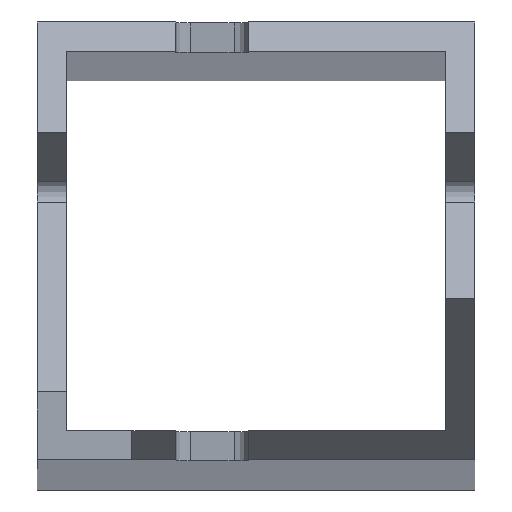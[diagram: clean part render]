
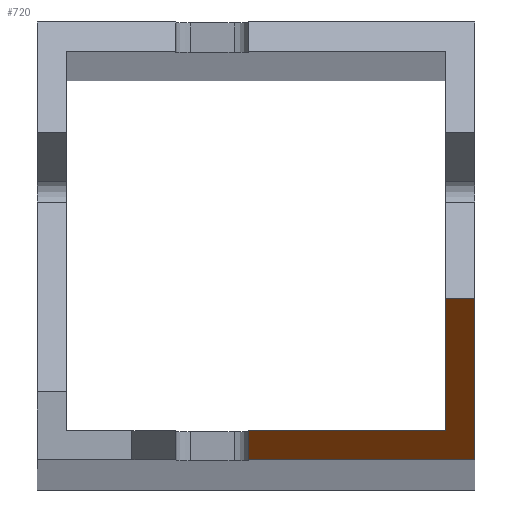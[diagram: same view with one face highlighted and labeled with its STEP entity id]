
A CAD part, top view. The second image highlights one B-rep face of the part: STEP entity #720.
In plain terms, the highlighted planar face has unit normal (0, -0.738, 0.675).
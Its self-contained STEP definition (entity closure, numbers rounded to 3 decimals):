
#32 = PLANE('',#33);
#33 = AXIS2_PLACEMENT_3D('',#34,#35,#36);
#34 = CARTESIAN_POINT('',(-30.,-30.,0.));
#35 = DIRECTION('',(0.,1.,0.));
#36 = DIRECTION('',(1.,0.,0.));
#285 = VERTEX_POINT('',#286);
#286 = CARTESIAN_POINT('',(-1.,-30.,2363.697));
#299 = PLANE('',#300);
#300 = AXIS2_PLACEMENT_3D('',#301,#302,#303);
#301 = CARTESIAN_POINT('',(-1.,3.345,2323.849));
#302 = DIRECTION('',(-1.,0.,0.));
#303 = DIRECTION('',(0.,0.738,-0.675));
#310 = EDGE_CURVE('',#285,#311,#313,.T.);
#311 = VERTEX_POINT('',#312);
#312 = CARTESIAN_POINT('',(30.,-30.,2363.697));
#313 = SURFACE_CURVE('',#314,(#318,#324),.PCURVE_S1.);
#314 = LINE('',#315,#316);
#315 = CARTESIAN_POINT('',(-23.5,-30.,2363.697));
#316 = VECTOR('',#317,1.);
#317 = DIRECTION('',(1.,0.,-0.));
#318 = PCURVE('',#32,#319);
#319 = DEFINITIONAL_REPRESENTATION('',(#320),#323);
#320 = B_SPLINE_CURVE_WITH_KNOTS('',1,(#321,#322),.UNSPECIFIED.,.F.,.F.,
  (2,2),(6.5,53.5),.PIECEWISE_BEZIER_KNOTS.);
#321 = CARTESIAN_POINT('',(13.,-2363.697));
#322 = CARTESIAN_POINT('',(60.,-2363.697));
#323 = ( GEOMETRIC_REPRESENTATION_CONTEXT(2) 
PARAMETRIC_REPRESENTATION_CONTEXT() REPRESENTATION_CONTEXT('2D SPACE',''
  ) );
#324 = PCURVE('',#325,#330);
#325 = PLANE('',#326);
#326 = AXIS2_PLACEMENT_3D('',#327,#328,#329);
#327 = CARTESIAN_POINT('',(-17.,-1296.179,
    980.28));
#328 = DIRECTION('',(0.,-0.738,0.675));
#329 = DIRECTION('',(0.,0.675,0.738));
#330 = DEFINITIONAL_REPRESENTATION('',(#331),#334);
#331 = B_SPLINE_CURVE_WITH_KNOTS('',1,(#332,#333),.UNSPECIFIED.,.F.,.F.,
  (2,2),(6.5,53.5),.PIECEWISE_BEZIER_KNOTS.);
#332 = CARTESIAN_POINT('',(1875.381,0.));
#333 = CARTESIAN_POINT('',(1875.381,-47.));
#334 = ( GEOMETRIC_REPRESENTATION_CONTEXT(2) 
PARAMETRIC_REPRESENTATION_CONTEXT() REPRESENTATION_CONTEXT('2D SPACE',''
  ) );
#350 = PLANE('',#351);
#351 = AXIS2_PLACEMENT_3D('',#352,#353,#354);
#352 = CARTESIAN_POINT('',(30.,-30.,0.));
#353 = DIRECTION('',(-1.,0.,0.));
#354 = DIRECTION('',(0.,1.,0.));
#454 = PLANE('',#455);
#455 = AXIS2_PLACEMENT_3D('',#456,#457,#458);
#456 = CARTESIAN_POINT('',(26.,-26.,0.));
#457 = DIRECTION('',(-1.,0.,0.));
#458 = DIRECTION('',(0.,1.,0.));
#482 = PLANE('',#483);
#483 = AXIS2_PLACEMENT_3D('',#484,#485,#486);
#484 = CARTESIAN_POINT('',(-26.,-26.,0.));
#485 = DIRECTION('',(0.,1.,0.));
#486 = DIRECTION('',(1.,0.,0.));
#546 = EDGE_CURVE('',#311,#547,#549,.T.);
#547 = VERTEX_POINT('',#548);
#548 = CARTESIAN_POINT('',(30.,-7.977,2387.76));
#549 = SURFACE_CURVE('',#550,(#554,#560),.PCURVE_S1.);
#550 = LINE('',#551,#552);
#551 = CARTESIAN_POINT('',(30.,-1251.704,1028.872));
#552 = VECTOR('',#553,1.);
#553 = DIRECTION('',(0.,0.675,0.738));
#554 = PCURVE('',#350,#555);
#555 = DEFINITIONAL_REPRESENTATION('',(#556),#559);
#556 = B_SPLINE_CURVE_WITH_KNOTS('',1,(#557,#558),.UNSPECIFIED.,.F.,.F.,
  (2,2),(1809.508,1846.127),
  .PIECEWISE_BEZIER_KNOTS.);
#557 = CARTESIAN_POINT('',(0.,-2363.697));
#558 = CARTESIAN_POINT('',(24.724,-2390.71));
#559 = ( GEOMETRIC_REPRESENTATION_CONTEXT(2) 
PARAMETRIC_REPRESENTATION_CONTEXT() REPRESENTATION_CONTEXT('2D SPACE',''
  ) );
#560 = PCURVE('',#325,#561);
#561 = DEFINITIONAL_REPRESENTATION('',(#562),#565);
#562 = B_SPLINE_CURVE_WITH_KNOTS('',1,(#563,#564),.UNSPECIFIED.,.F.,.F.,
  (2,2),(1809.508,1846.127),
  .PIECEWISE_BEZIER_KNOTS.);
#563 = CARTESIAN_POINT('',(1875.381,-47.));
#564 = CARTESIAN_POINT('',(1912.,-47.));
#565 = ( GEOMETRIC_REPRESENTATION_CONTEXT(2) 
PARAMETRIC_REPRESENTATION_CONTEXT() REPRESENTATION_CONTEXT('2D SPACE',''
  ) );
#582 = PLANE('',#583);
#583 = AXIS2_PLACEMENT_3D('',#584,#585,#586);
#584 = CARTESIAN_POINT('',(25.,-38.959,2416.116));
#585 = DIRECTION('',(0.,0.675,0.738));
#586 = DIRECTION('',(0.,-0.738,0.675));
#720 = ADVANCED_FACE('',(#721),#325,.T.);
#721 = FACE_BOUND('',#722,.T.);
#722 = EDGE_LOOP('',(#723,#744,#745,#746,#767,#788));
#723 = ORIENTED_EDGE('',*,*,#724,.T.);
#724 = EDGE_CURVE('',#725,#285,#727,.T.);
#725 = VERTEX_POINT('',#726);
#726 = CARTESIAN_POINT('',(-1.,-26.,2368.068));
#727 = SURFACE_CURVE('',#728,(#732,#738),.PCURVE_S1.);
#728 = LINE('',#729,#730);
#729 = CARTESIAN_POINT('',(-1.,-665.413,1669.45));
#730 = VECTOR('',#731,1.);
#731 = DIRECTION('',(-0.,-0.675,-0.738));
#732 = PCURVE('',#325,#733);
#733 = DEFINITIONAL_REPRESENTATION('',(#734),#737);
#734 = B_SPLINE_CURVE_WITH_KNOTS('',1,(#735,#736),.UNSPECIFIED.,.F.,.F.,
  (2,2),(-973.751,-941.132),.PIECEWISE_BEZIER_KNOTS.);
#735 = CARTESIAN_POINT('',(1908.,-16.));
#736 = CARTESIAN_POINT('',(1875.381,-16.));
#737 = ( GEOMETRIC_REPRESENTATION_CONTEXT(2) 
PARAMETRIC_REPRESENTATION_CONTEXT() REPRESENTATION_CONTEXT('2D SPACE',''
  ) );
#738 = PCURVE('',#299,#739);
#739 = DEFINITIONAL_REPRESENTATION('',(#740),#743);
#740 = B_SPLINE_CURVE_WITH_KNOTS('',1,(#741,#742),.UNSPECIFIED.,.F.,.F.,
  (2,2),(-973.751,-941.132),.PIECEWISE_BEZIER_KNOTS.);
#741 = CARTESIAN_POINT('',(-51.502,-39.502));
#742 = CARTESIAN_POINT('',(-51.502,-6.882));
#743 = ( GEOMETRIC_REPRESENTATION_CONTEXT(2) 
PARAMETRIC_REPRESENTATION_CONTEXT() REPRESENTATION_CONTEXT('2D SPACE',''
  ) );
#744 = ORIENTED_EDGE('',*,*,#310,.T.);
#745 = ORIENTED_EDGE('',*,*,#546,.T.);
#746 = ORIENTED_EDGE('',*,*,#747,.T.);
#747 = EDGE_CURVE('',#547,#748,#750,.T.);
#748 = VERTEX_POINT('',#749);
#749 = CARTESIAN_POINT('',(26.,-7.977,2387.76));
#750 = SURFACE_CURVE('',#751,(#755,#761),.PCURVE_S1.);
#751 = LINE('',#752,#753);
#752 = CARTESIAN_POINT('',(4.,-7.977,2387.76
    ));
#753 = VECTOR('',#754,1.);
#754 = DIRECTION('',(-1.,0.,0.));
#755 = PCURVE('',#325,#756);
#756 = DEFINITIONAL_REPRESENTATION('',(#757),#760);
#757 = B_SPLINE_CURVE_WITH_KNOTS('',1,(#758,#759),.UNSPECIFIED.,.F.,.F.,
  (2,2),(-26.,21.),.PIECEWISE_BEZIER_KNOTS.);
#758 = CARTESIAN_POINT('',(1908.,-47.));
#759 = CARTESIAN_POINT('',(1908.,0.));
#760 = ( GEOMETRIC_REPRESENTATION_CONTEXT(2) 
PARAMETRIC_REPRESENTATION_CONTEXT() REPRESENTATION_CONTEXT('2D SPACE',''
  ) );
#761 = PCURVE('',#582,#762);
#762 = DEFINITIONAL_REPRESENTATION('',(#763),#766);
#763 = B_SPLINE_CURVE_WITH_KNOTS('',1,(#764,#765),.UNSPECIFIED.,.F.,.F.,
  (2,2),(-26.,21.),.PIECEWISE_BEZIER_KNOTS.);
#764 = CARTESIAN_POINT('',(-42.,5.));
#765 = CARTESIAN_POINT('',(-42.,-42.));
#766 = ( GEOMETRIC_REPRESENTATION_CONTEXT(2) 
PARAMETRIC_REPRESENTATION_CONTEXT() REPRESENTATION_CONTEXT('2D SPACE',''
  ) );
#767 = ORIENTED_EDGE('',*,*,#768,.F.);
#768 = EDGE_CURVE('',#769,#748,#771,.T.);
#769 = VERTEX_POINT('',#770);
#770 = CARTESIAN_POINT('',(26.,-26.,2368.068));
#771 = SURFACE_CURVE('',#772,(#776,#782),.PCURVE_S1.);
#772 = LINE('',#773,#774);
#773 = CARTESIAN_POINT('',(26.,-1250.793,1029.868));
#774 = VECTOR('',#775,1.);
#775 = DIRECTION('',(0.,0.675,0.738));
#776 = PCURVE('',#325,#777);
#777 = DEFINITIONAL_REPRESENTATION('',(#778),#781);
#778 = B_SPLINE_CURVE_WITH_KNOTS('',1,(#779,#780),.UNSPECIFIED.,.F.,.F.,
  (2,2),(1814.082,1844.777),
  .PIECEWISE_BEZIER_KNOTS.);
#779 = CARTESIAN_POINT('',(1881.305,-43.));
#780 = CARTESIAN_POINT('',(1912.,-43.));
#781 = ( GEOMETRIC_REPRESENTATION_CONTEXT(2) 
PARAMETRIC_REPRESENTATION_CONTEXT() REPRESENTATION_CONTEXT('2D SPACE',''
  ) );
#782 = PCURVE('',#454,#783);
#783 = DEFINITIONAL_REPRESENTATION('',(#784),#787);
#784 = B_SPLINE_CURVE_WITH_KNOTS('',1,(#785,#786),.UNSPECIFIED.,.F.,.F.,
  (2,2),(1814.082,1844.777),
  .PIECEWISE_BEZIER_KNOTS.);
#785 = CARTESIAN_POINT('',(0.,-2368.068));
#786 = CARTESIAN_POINT('',(20.724,-2390.71));
#787 = ( GEOMETRIC_REPRESENTATION_CONTEXT(2) 
PARAMETRIC_REPRESENTATION_CONTEXT() REPRESENTATION_CONTEXT('2D SPACE',''
  ) );
#788 = ORIENTED_EDGE('',*,*,#789,.F.);
#789 = EDGE_CURVE('',#725,#769,#790,.T.);
#790 = SURFACE_CURVE('',#791,(#795,#801),.PCURVE_S1.);
#791 = LINE('',#792,#793);
#792 = CARTESIAN_POINT('',(-21.5,-26.,2368.068));
#793 = VECTOR('',#794,1.);
#794 = DIRECTION('',(1.,0.,-0.));
#795 = PCURVE('',#325,#796);
#796 = DEFINITIONAL_REPRESENTATION('',(#797),#800);
#797 = B_SPLINE_CURVE_WITH_KNOTS('',1,(#798,#799),.UNSPECIFIED.,.F.,.F.,
  (2,2),(4.5,47.5),.PIECEWISE_BEZIER_KNOTS.);
#798 = CARTESIAN_POINT('',(1881.305,0.));
#799 = CARTESIAN_POINT('',(1881.305,-43.));
#800 = ( GEOMETRIC_REPRESENTATION_CONTEXT(2) 
PARAMETRIC_REPRESENTATION_CONTEXT() REPRESENTATION_CONTEXT('2D SPACE',''
  ) );
#801 = PCURVE('',#482,#802);
#802 = DEFINITIONAL_REPRESENTATION('',(#803),#806);
#803 = B_SPLINE_CURVE_WITH_KNOTS('',1,(#804,#805),.UNSPECIFIED.,.F.,.F.,
  (2,2),(4.5,47.5),.PIECEWISE_BEZIER_KNOTS.);
#804 = CARTESIAN_POINT('',(9.,-2368.068));
#805 = CARTESIAN_POINT('',(52.,-2368.068));
#806 = ( GEOMETRIC_REPRESENTATION_CONTEXT(2) 
PARAMETRIC_REPRESENTATION_CONTEXT() REPRESENTATION_CONTEXT('2D SPACE',''
  ) );
